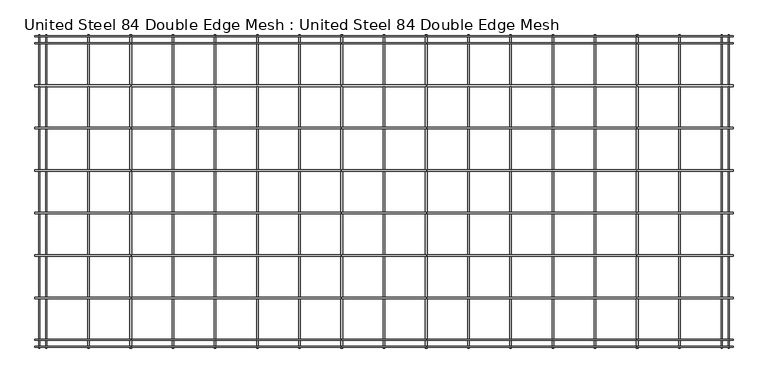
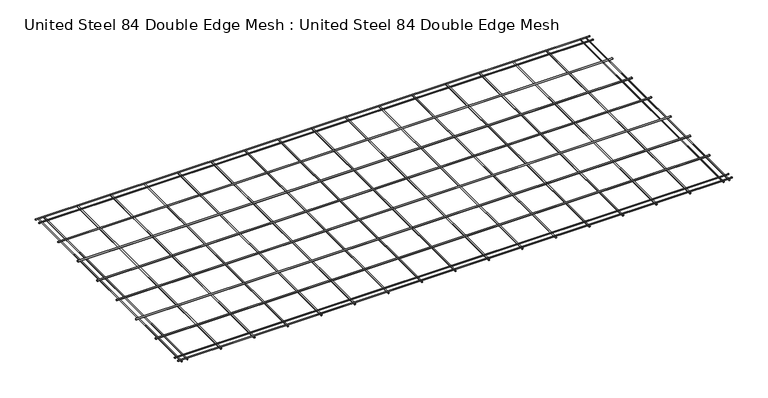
"""IFC4 building model written with IfcOpenShell, lengths in millimetres: proxy geometry, United Steel 84 Double Edge Mesh : United Steel 84 Double Edge Mesh."""

from ifc_helpers import new_model, si_unit, point, frame, frame_2d, origin, place, context, project, spatial, circle_curve, trimmed, segment, composite_curve, outline, extrude, source, transform, mapped, element, save


def united_steel_84_double_edge_mesh_united_steel_84_double_edge_cd531168(model_context):
    return source(origin(), model_context, "Body", "SweptSolid", [
        extrude(outline(composite_curve([segment(trimmed(circle_curve(frame_2d((-1564.5282591, 20.5723475)), 5.6), [point((-1570.1282591, 20.5723475))], [point((-1558.9282591, 20.5723475))], False, "CARTESIAN"), True, "CONTINUOUS"), segment(trimmed(circle_curve(frame_2d((-1564.5282591, 20.5723475)), 5.6), [point((-1558.9282591, 20.5723475))], [point((-1570.1282591, 20.5723475))], False, "CARTESIAN"), True, "CONTINUOUS")], self_intersect=False)), frame((-4950.0, 0.0, 0.0), z_axis=(1.0, 0.0, 0.0), x_axis=(0.0, 1.0, 0.0)), (0.0, 0.0, 1.0), 4950.0),
        extrude(outline(composite_curve([segment(trimmed(circle_curve(frame_2d((-1263.4565182, 20.5723475)), 5.6), [point((-1269.0565182, 20.5723475))], [point((-1257.8565182, 20.5723475))], False, "CARTESIAN"), True, "CONTINUOUS"), segment(trimmed(circle_curve(frame_2d((-1263.4565182, 20.5723475)), 5.6), [point((-1257.8565182, 20.5723475))], [point((-1269.0565182, 20.5723475))], False, "CARTESIAN"), True, "CONTINUOUS")], self_intersect=False)), frame((-4950.0, 0.0, 0.0), z_axis=(1.0, 0.0, 0.0), x_axis=(0.0, 1.0, 0.0)), (0.0, 0.0, 1.0), 4950.0),
        extrude(outline(composite_curve([segment(trimmed(circle_curve(frame_2d((-962.3847773, 20.5723475)), 5.6), [point((-967.9847773, 20.5723475))], [point((-956.7847773, 20.5723475))], False, "CARTESIAN"), True, "CONTINUOUS"), segment(trimmed(circle_curve(frame_2d((-962.3847773, 20.5723475)), 5.6), [point((-956.7847773, 20.5723475))], [point((-967.9847773, 20.5723475))], False, "CARTESIAN"), True, "CONTINUOUS")], self_intersect=False)), frame((-4950.0, 0.0, 0.0), z_axis=(1.0, 0.0, 0.0), x_axis=(0.0, 1.0, 0.0)), (0.0, 0.0, 1.0), 4950.0),
        extrude(outline(composite_curve([segment(trimmed(circle_curve(frame_2d((-661.3130364, 20.5723475)), 5.6), [point((-666.9130364, 20.5723475))], [point((-655.7130364, 20.5723475))], False, "CARTESIAN"), True, "CONTINUOUS"), segment(trimmed(circle_curve(frame_2d((-661.3130364, 20.5723475)), 5.6), [point((-655.7130364, 20.5723475))], [point((-666.9130364, 20.5723475))], False, "CARTESIAN"), True, "CONTINUOUS")], self_intersect=False)), frame((-4950.0, 0.0, 0.0), z_axis=(1.0, 0.0, 0.0), x_axis=(0.0, 1.0, 0.0)), (0.0, 0.0, 1.0), 4950.0),
        extrude(outline(composite_curve([segment(trimmed(circle_curve(frame_2d((-1865.6, 20.5723475)), 5.6), [point((-1871.2, 20.5723475))], [point((-1860.0, 20.5723475))], False, "CARTESIAN"), True, "CONTINUOUS"), segment(trimmed(circle_curve(frame_2d((-1865.6, 20.5723475)), 5.6), [point((-1860.0, 20.5723475))], [point((-1871.2, 20.5723475))], False, "CARTESIAN"), True, "CONTINUOUS")], self_intersect=False)), frame((-4950.0, 0.0, 0.0), z_axis=(1.0, 0.0, 0.0), x_axis=(0.0, 1.0, 0.0)), (0.0, 0.0, 1.0), 4950.0),
        extrude(outline(composite_curve([segment(trimmed(circle_curve(frame_2d((-2159.9992801, 18.970785)), 4.0), [point((-2155.9992801, 18.970785))], [point((-2163.9992801, 18.970785))], False, "CARTESIAN"), True, "CONTINUOUS"), segment(trimmed(circle_curve(frame_2d((-2159.9992801, 18.970785)), 4.0), [point((-2163.9992801, 18.970785))], [point((-2155.9992801, 18.970785))], False, "CARTESIAN"), True, "CONTINUOUS")], self_intersect=False)), frame((-4950.0, 0.0, 0.0), z_axis=(1.0, 0.0, 0.0), x_axis=(0.0, 1.0, 0.0)), (0.0, 0.0, 1.0), 4950.0),
        extrude(outline(composite_curve([segment(trimmed(circle_curve(frame_2d((-2209.9992801, 18.970785)), 4.0), [point((-2205.9992801, 18.970785))], [point((-2213.9992801, 18.970785))], False, "CARTESIAN"), True, "CONTINUOUS"), segment(trimmed(circle_curve(frame_2d((-2209.9992801, 18.970785)), 4.0), [point((-2213.9992801, 18.970785))], [point((-2205.9992801, 18.970785))], False, "CARTESIAN"), True, "CONTINUOUS")], self_intersect=False)), frame((-4950.0, 0.0, 0.0), z_axis=(1.0, 0.0, 0.0), x_axis=(0.0, 1.0, 0.0)), (0.0, 0.0, 1.0), 4950.0),
        extrude(outline(composite_curve([segment(trimmed(circle_curve(frame_2d((-60.0007199, 18.970785)), 4.0), [point((-64.0007199, 18.970785))], [point((-56.0007199, 18.970785))], False, "CARTESIAN"), True, "CONTINUOUS"), segment(trimmed(circle_curve(frame_2d((-60.0007199, 18.970785)), 4.0), [point((-56.0007199, 18.970785))], [point((-64.0007199, 18.970785))], False, "CARTESIAN"), True, "CONTINUOUS")], self_intersect=False)), frame((-4950.0, 0.0, 0.0), z_axis=(1.0, 0.0, 0.0), x_axis=(0.0, 1.0, 0.0)), (0.0, 0.0, 1.0), 4950.0),
        extrude(outline(composite_curve([segment(trimmed(circle_curve(frame_2d((9.371924, -4270.7186988)), 5.6), [point((9.371924, -4276.3186988))], [point((9.371924, -4265.1186988))], False, "CARTESIAN"), True, "CONTINUOUS"), segment(trimmed(circle_curve(frame_2d((9.371924, -4270.7186988)), 5.6), [point((9.371924, -4265.1186988))], [point((9.371924, -4276.3186988))], False, "CARTESIAN"), True, "CONTINUOUS")], self_intersect=False)), frame((0.0, -2220.0, 0.0), z_axis=(0.0, 1.0, 0.0), x_axis=(0.0, 0.0, 1.0)), (0.0, 0.0, 1.0), 2220.0),
        extrude(outline(composite_curve([segment(trimmed(circle_curve(frame_2d((9.371924, -3971.4327755)), 5.6), [point((9.371924, -3977.0327755))], [point((9.371924, -3965.8327755))], False, "CARTESIAN"), True, "CONTINUOUS"), segment(trimmed(circle_curve(frame_2d((9.371924, -3971.4327755)), 5.6), [point((9.371924, -3965.8327755))], [point((9.371924, -3977.0327755))], False, "CARTESIAN"), True, "CONTINUOUS")], self_intersect=False)), frame((0.0, -2220.0, 0.0), z_axis=(0.0, 1.0, 0.0), x_axis=(0.0, 0.0, 1.0)), (0.0, 0.0, 1.0), 2220.0),
        extrude(outline(composite_curve([segment(trimmed(circle_curve(frame_2d((9.371924, -3672.1468523)), 5.6), [point((9.371924, -3677.7468523))], [point((9.371924, -3666.5468523))], False, "CARTESIAN"), True, "CONTINUOUS"), segment(trimmed(circle_curve(frame_2d((9.371924, -3672.1468523)), 5.6), [point((9.371924, -3666.5468523))], [point((9.371924, -3677.7468523))], False, "CARTESIAN"), True, "CONTINUOUS")], self_intersect=False)), frame((0.0, -2220.0, 0.0), z_axis=(0.0, 1.0, 0.0), x_axis=(0.0, 0.0, 1.0)), (0.0, 0.0, 1.0), 2220.0),
        extrude(outline(composite_curve([segment(trimmed(circle_curve(frame_2d((9.371924, -3372.8609291)), 5.6), [point((9.371924, -3378.4609291))], [point((9.371924, -3367.2609291))], False, "CARTESIAN"), True, "CONTINUOUS"), segment(trimmed(circle_curve(frame_2d((9.371924, -3372.8609291)), 5.6), [point((9.371924, -3367.2609291))], [point((9.371924, -3378.4609291))], False, "CARTESIAN"), True, "CONTINUOUS")], self_intersect=False)), frame((0.0, -2220.0, 0.0), z_axis=(0.0, 1.0, 0.0), x_axis=(0.0, 0.0, 1.0)), (0.0, 0.0, 1.0), 2220.0),
        extrude(outline(composite_curve([segment(trimmed(circle_curve(frame_2d((9.371924, -3073.5750058)), 5.6), [point((9.371924, -3079.1750058))], [point((9.371924, -3067.9750058))], False, "CARTESIAN"), True, "CONTINUOUS"), segment(trimmed(circle_curve(frame_2d((9.371924, -3073.5750058)), 5.6), [point((9.371924, -3067.9750058))], [point((9.371924, -3079.1750058))], False, "CARTESIAN"), True, "CONTINUOUS")], self_intersect=False)), frame((0.0, -2220.0, 0.0), z_axis=(0.0, 1.0, 0.0), x_axis=(0.0, 0.0, 1.0)), (0.0, 0.0, 1.0), 2220.0),
        extrude(outline(composite_curve([segment(trimmed(circle_curve(frame_2d((9.371924, -2774.2890826)), 5.6), [point((9.371924, -2779.8890826))], [point((9.371924, -2768.6890826))], False, "CARTESIAN"), True, "CONTINUOUS"), segment(trimmed(circle_curve(frame_2d((9.371924, -2774.2890826)), 5.6), [point((9.371924, -2768.6890826))], [point((9.371924, -2779.8890826))], False, "CARTESIAN"), True, "CONTINUOUS")], self_intersect=False)), frame((0.0, -2220.0, 0.0), z_axis=(0.0, 1.0, 0.0), x_axis=(0.0, 0.0, 1.0)), (0.0, 0.0, 1.0), 2220.0),
        extrude(outline(composite_curve([segment(trimmed(circle_curve(frame_2d((9.371924, -2475.0031594)), 5.6), [point((9.371924, -2480.6031594))], [point((9.371924, -2469.4031594))], False, "CARTESIAN"), True, "CONTINUOUS"), segment(trimmed(circle_curve(frame_2d((9.371924, -2475.0031594)), 5.6), [point((9.371924, -2469.4031594))], [point((9.371924, -2480.6031594))], False, "CARTESIAN"), True, "CONTINUOUS")], self_intersect=False)), frame((0.0, -2220.0, 0.0), z_axis=(0.0, 1.0, 0.0), x_axis=(0.0, 0.0, 1.0)), (0.0, 0.0, 1.0), 2220.0),
        extrude(outline(composite_curve([segment(trimmed(circle_curve(frame_2d((9.371924, -2175.7172362)), 5.6), [point((9.371924, -2181.3172362))], [point((9.371924, -2170.1172362))], False, "CARTESIAN"), True, "CONTINUOUS"), segment(trimmed(circle_curve(frame_2d((9.371924, -2175.7172362)), 5.6), [point((9.371924, -2170.1172362))], [point((9.371924, -2181.3172362))], False, "CARTESIAN"), True, "CONTINUOUS")], self_intersect=False)), frame((0.0, -2220.0, 0.0), z_axis=(0.0, 1.0, 0.0), x_axis=(0.0, 0.0, 1.0)), (0.0, 0.0, 1.0), 2220.0),
        extrude(outline(composite_curve([segment(trimmed(circle_curve(frame_2d((9.371924, -1876.4313129)), 5.6), [point((9.371924, -1882.0313129))], [point((9.371924, -1870.8313129))], False, "CARTESIAN"), True, "CONTINUOUS"), segment(trimmed(circle_curve(frame_2d((9.371924, -1876.4313129)), 5.6), [point((9.371924, -1870.8313129))], [point((9.371924, -1882.0313129))], False, "CARTESIAN"), True, "CONTINUOUS")], self_intersect=False)), frame((0.0, -2220.0, 0.0), z_axis=(0.0, 1.0, 0.0), x_axis=(0.0, 0.0, 1.0)), (0.0, 0.0, 1.0), 2220.0),
        extrude(outline(composite_curve([segment(trimmed(circle_curve(frame_2d((9.371924, -1577.1453897)), 5.6), [point((9.371924, -1582.7453897))], [point((9.371924, -1571.5453897))], False, "CARTESIAN"), True, "CONTINUOUS"), segment(trimmed(circle_curve(frame_2d((9.371924, -1577.1453897)), 5.6), [point((9.371924, -1571.5453897))], [point((9.371924, -1582.7453897))], False, "CARTESIAN"), True, "CONTINUOUS")], self_intersect=False)), frame((0.0, -2220.0, 0.0), z_axis=(0.0, 1.0, 0.0), x_axis=(0.0, 0.0, 1.0)), (0.0, 0.0, 1.0), 2220.0),
        extrude(outline(composite_curve([segment(trimmed(circle_curve(frame_2d((9.371924, -1277.8594665)), 5.6), [point((9.371924, -1283.4594665))], [point((9.371924, -1272.2594665))], False, "CARTESIAN"), True, "CONTINUOUS"), segment(trimmed(circle_curve(frame_2d((9.371924, -1277.8594665)), 5.6), [point((9.371924, -1272.2594665))], [point((9.371924, -1283.4594665))], False, "CARTESIAN"), True, "CONTINUOUS")], self_intersect=False)), frame((0.0, -2220.0, 0.0), z_axis=(0.0, 1.0, 0.0), x_axis=(0.0, 0.0, 1.0)), (0.0, 0.0, 1.0), 2220.0),
        extrude(outline(composite_curve([segment(trimmed(circle_curve(frame_2d((9.371924, -978.5735432)), 5.6), [point((9.371924, -984.1735432))], [point((9.371924, -972.9735432))], False, "CARTESIAN"), True, "CONTINUOUS"), segment(trimmed(circle_curve(frame_2d((9.371924, -978.5735432)), 5.6), [point((9.371924, -972.9735432))], [point((9.371924, -984.1735432))], False, "CARTESIAN"), True, "CONTINUOUS")], self_intersect=False)), frame((0.0, -2220.0, 0.0), z_axis=(0.0, 1.0, 0.0), x_axis=(0.0, 0.0, 1.0)), (0.0, 0.0, 1.0), 2220.0),
        extrude(outline(composite_curve([segment(trimmed(circle_curve(frame_2d((9.371924, -679.28762)), 5.6), [point((9.371924, -684.88762))], [point((9.371924, -673.68762))], False, "CARTESIAN"), True, "CONTINUOUS"), segment(trimmed(circle_curve(frame_2d((9.371924, -679.28762)), 5.6), [point((9.371924, -673.68762))], [point((9.371924, -684.88762))], False, "CARTESIAN"), True, "CONTINUOUS")], self_intersect=False)), frame((0.0, -2220.0, 0.0), z_axis=(0.0, 1.0, 0.0), x_axis=(0.0, 0.0, 1.0)), (0.0, 0.0, 1.0), 2220.0),
        extrude(outline(composite_curve([segment(trimmed(circle_curve(frame_2d((9.371924, -4570.004622)), 5.6), [point((9.371924, -4575.604622))], [point((9.371924, -4564.404622))], False, "CARTESIAN"), True, "CONTINUOUS"), segment(trimmed(circle_curve(frame_2d((9.371924, -4570.004622)), 5.6), [point((9.371924, -4564.404622))], [point((9.371924, -4575.604622))], False, "CARTESIAN"), True, "CONTINUOUS")], self_intersect=False)), frame((0.0, -2220.0, 0.0), z_axis=(0.0, 1.0, 0.0), x_axis=(0.0, 0.0, 1.0)), (0.0, 0.0, 1.0), 2220.0),
        extrude(outline(composite_curve([segment(trimmed(circle_curve(frame_2d((10.9734865, -4869.9995481)), 4.0), [point((10.9734865, -4873.9995481))], [point((10.9734865, -4865.9995481))], False, "CARTESIAN"), True, "CONTINUOUS"), segment(trimmed(circle_curve(frame_2d((10.9734865, -4869.9995481)), 4.0), [point((10.9734865, -4865.9995481))], [point((10.9734865, -4873.9995481))], False, "CARTESIAN"), True, "CONTINUOUS")], self_intersect=False)), frame((0.0, -2220.0, 0.0), z_axis=(0.0, 1.0, 0.0), x_axis=(0.0, 0.0, 1.0)), (0.0, 0.0, 1.0), 2220.0),
        extrude(outline(composite_curve([segment(trimmed(circle_curve(frame_2d((10.9734865, -4920.0004519)), 4.0), [point((10.9734865, -4916.0004519))], [point((10.9734865, -4924.0004519))], False, "CARTESIAN"), True, "CONTINUOUS"), segment(trimmed(circle_curve(frame_2d((10.9734865, -4920.0004519)), 4.0), [point((10.9734865, -4924.0004519))], [point((10.9734865, -4916.0004519))], False, "CARTESIAN"), True, "CONTINUOUS")], self_intersect=False)), frame((0.0, -2220.0, 0.0), z_axis=(0.0, 1.0, 0.0), x_axis=(0.0, 0.0, 1.0)), (0.0, 0.0, 1.0), 2220.0),
        extrude(outline(composite_curve([segment(trimmed(circle_curve(frame_2d((10.9734865, -80.0004519)), 4.0), [point((10.9734865, -76.0004519))], [point((10.9734865, -84.0004519))], False, "CARTESIAN"), True, "CONTINUOUS"), segment(trimmed(circle_curve(frame_2d((10.9734865, -80.0004519)), 4.0), [point((10.9734865, -84.0004519))], [point((10.9734865, -76.0004519))], False, "CARTESIAN"), True, "CONTINUOUS")], self_intersect=False)), frame((0.0, -2220.0, 0.0), z_axis=(0.0, 1.0, 0.0), x_axis=(0.0, 0.0, 1.0)), (0.0, 0.0, 1.0), 2220.0),
        extrude(outline(composite_curve([segment(trimmed(circle_curve(frame_2d((-360.2412954, 20.5723475)), 5.6), [point((-365.8412954, 20.5723475))], [point((-354.6412954, 20.5723475))], False, "CARTESIAN"), True, "CONTINUOUS"), segment(trimmed(circle_curve(frame_2d((-360.2412954, 20.5723475)), 5.6), [point((-354.6412954, 20.5723475))], [point((-365.8412954, 20.5723475))], False, "CARTESIAN"), True, "CONTINUOUS")], self_intersect=False)), frame((-4950.0, 0.0, 0.0), z_axis=(1.0, 0.0, 0.0), x_axis=(0.0, 1.0, 0.0)), (0.0, 0.0, 1.0), 4950.0),
        extrude(outline(composite_curve([segment(trimmed(circle_curve(frame_2d((-10.0007199, 18.970785)), 4.0), [point((-14.0007199, 18.970785))], [point((-6.0007199, 18.970785))], False, "CARTESIAN"), True, "CONTINUOUS"), segment(trimmed(circle_curve(frame_2d((-10.0007199, 18.970785)), 4.0), [point((-6.0007199, 18.970785))], [point((-14.0007199, 18.970785))], False, "CARTESIAN"), True, "CONTINUOUS")], self_intersect=False)), frame((-4950.0, 0.0, 0.0), z_axis=(1.0, 0.0, 0.0), x_axis=(0.0, 1.0, 0.0)), (0.0, 0.0, 1.0), 4950.0),
        extrude(outline(composite_curve([segment(trimmed(circle_curve(frame_2d((9.371924, -380.0016968)), 5.6), [point((9.371924, -385.6016968))], [point((9.371924, -374.4016968))], False, "CARTESIAN"), True, "CONTINUOUS"), segment(trimmed(circle_curve(frame_2d((9.371924, -380.0016968)), 5.6), [point((9.371924, -374.4016968))], [point((9.371924, -385.6016968))], False, "CARTESIAN"), True, "CONTINUOUS")], self_intersect=False)), frame((0.0, -2220.0, 0.0), z_axis=(0.0, 1.0, 0.0), x_axis=(0.0, 0.0, 1.0)), (0.0, 0.0, 1.0), 2220.0),
        extrude(outline(composite_curve([segment(trimmed(circle_curve(frame_2d((10.9734865, -29.9995481)), 4.0), [point((10.9734865, -33.9995481))], [point((10.9734865, -25.9995481))], False, "CARTESIAN"), True, "CONTINUOUS"), segment(trimmed(circle_curve(frame_2d((10.9734865, -29.9995481)), 4.0), [point((10.9734865, -25.9995481))], [point((10.9734865, -33.9995481))], False, "CARTESIAN"), True, "CONTINUOUS")], self_intersect=False)), frame((0.0, -2220.0, 0.0), z_axis=(0.0, 1.0, 0.0), x_axis=(0.0, 0.0, 1.0)), (0.0, 0.0, 1.0), 2220.0),
    ])


if __name__ == "__main__":
    model = new_model("IFC4")
    model_context = context("Model", 3, world=origin())
    ifc_project = project(units=[si_unit("LENGTHUNIT", "METRE", prefix="MILLI")], contexts=[model_context])
    site = spatial("IfcSite", under=ifc_project)
    building = spatial("IfcBuilding", under=site)
    placement = place(None, origin())
    united_steel_84_double_edge_mesh_united_steel_84_double_edge_shape = united_steel_84_double_edge_mesh_united_steel_84_double_edge_cd531168(model_context)
    element("IfcBuildingElementProxy", 1, Name="United Steel 84 Double Edge Mesh : United Steel 84 Double Edge Mesh", ObjectType="United Steel 84 Double Edge Mesh : United Steel 84 Double Edge Mesh", at=placement, inside=building, context=model_context, shape_type="MappedRepresentation", body=[
        mapped(united_steel_84_double_edge_mesh_united_steel_84_double_edge_shape, transform((0.0, 0.0, 0.0), x_axis=(1.0, 0.0, 0.0), y_axis=(0.0, 1.0, 0.0), z_axis=(0.0, 0.0, 1.0))),
    ])
    save(model, "model.ifc")
